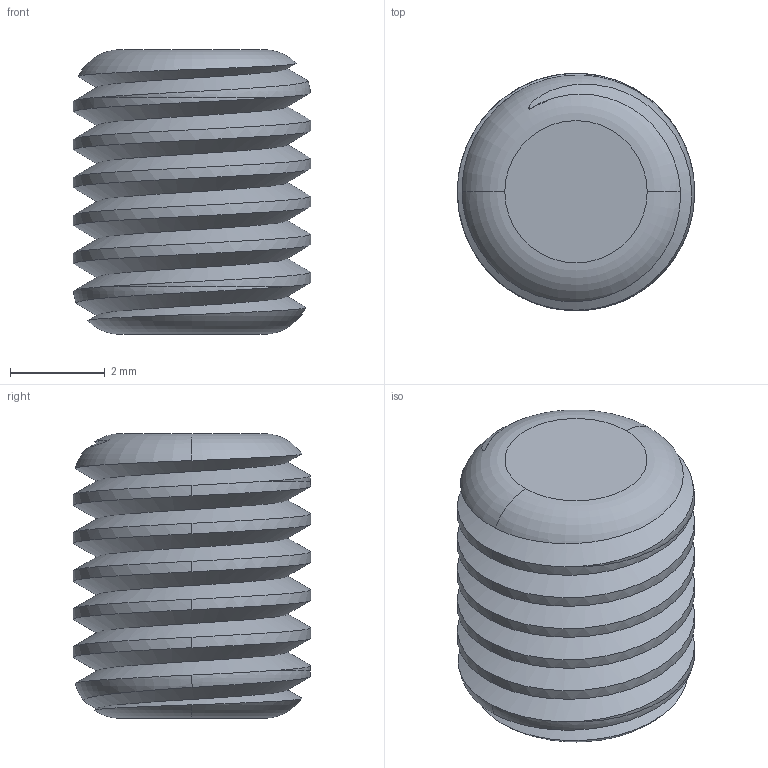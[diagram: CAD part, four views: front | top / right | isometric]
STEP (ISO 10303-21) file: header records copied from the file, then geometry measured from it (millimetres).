
FILE_DESCRIPTION (( 'STEP AP203' ), '1' );
FILE_NAME ('152-CE-IFB-M5.STEP', '2015-07-09T09:07:02', ( '' ), ( '' ), 'SwSTEP 2.0', 'SolidWorks 2013', '' );
FILE_SCHEMA (( 'CONFIG_CONTROL_DESIGN' ));
Length unit declared in the file: millimetre
Products named in the file (1): 152-CE-IFB-M5
Bounding box: 5 x 5 x 6 mm (x, y, z)
Volume: 87.6 mm3; surface area: 182.5 mm2
Topology: 1 solids, 1 shells, 28 faces, 75 edges, 50 vertices
Faces by surface type: cylinder 11, plane 9, torus 6, bspline 2
Entity records: 1869 total; most frequent: CARTESIAN_POINT 1176, ORIENTED_EDGE 150, DIRECTION 106, EDGE_CURVE 75, VERTEX_POINT 50, AXIS2_PLACEMENT_3D 39, EDGE_LOOP 29, LINE 28
